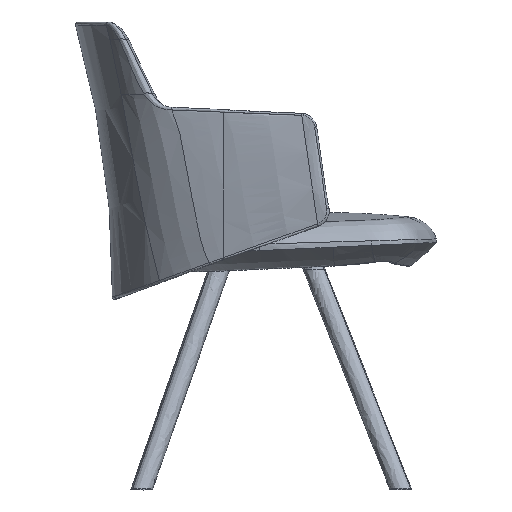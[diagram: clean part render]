
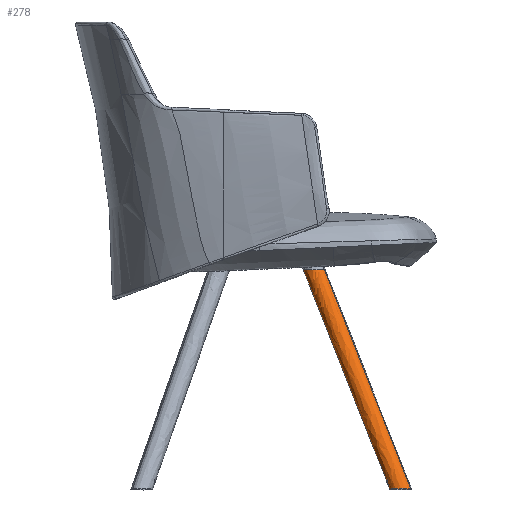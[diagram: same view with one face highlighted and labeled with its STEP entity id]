
A CAD part, left-side view. The second image highlights one B-rep face of the part: STEP entity #278.
In plain terms, the highlighted free-form (B-spline) face has degree [1, 2] with [2, 5] control points.
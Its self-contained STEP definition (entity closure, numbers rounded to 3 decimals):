
#278=ADVANCED_FACE('',(#415),#2401,.T.);
#415=FACE_OUTER_BOUND('',#552,.T.);
#552=EDGE_LOOP('',(#1257,#1258,#1259,#1260));
#1257=ORIENTED_EDGE('',*,*,#1687,.F.);
#1258=ORIENTED_EDGE('',*,*,#1688,.T.);
#1259=ORIENTED_EDGE('',*,*,#1689,.T.);
#1260=ORIENTED_EDGE('',*,*,#1690,.F.);
#1687=EDGE_CURVE('',#2371,#2373,#2117,.T.);
#1688=EDGE_CURVE('',#2371,#2372,#1723,.T.);
#1689=EDGE_CURVE('',#2372,#2374,#2118,.T.);
#1690=EDGE_CURVE('',#2373,#2374,#1724,.T.);
#1723=(
BOUNDED_CURVE()
B_SPLINE_CURVE(1,(#53919,#53920),.UNSPECIFIED.,.F.,.F.)
B_SPLINE_CURVE_WITH_KNOTS((2,2),(0.6,404.127),
 .UNSPECIFIED.)
CURVE()
GEOMETRIC_REPRESENTATION_ITEM()
RATIONAL_B_SPLINE_CURVE((1.,1.))
REPRESENTATION_ITEM('')
);
#1724=(
BOUNDED_CURVE()
B_SPLINE_CURVE(1,(#53954,#53955),.UNSPECIFIED.,.F.,.F.)
B_SPLINE_CURVE_WITH_KNOTS((2,2),(17.315,422.554),
 .UNSPECIFIED.)
CURVE()
GEOMETRIC_REPRESENTATION_ITEM()
RATIONAL_B_SPLINE_CURVE((1.,1.))
REPRESENTATION_ITEM('')
);
#2117=B_SPLINE_CURVE_WITH_KNOTS('',3,(#53888,#53889,#53890,#53891,#53892,
#53893,#53894,#53895,#53896,#53897,#53898,#53899,#53900,#53901,#53902,#53903,
#53904,#53905,#53906,#53907,#53908,#53909,#53910,#53911,#53912,#53913,#53914,
#53915,#53916,#53917,#53918),.UNSPECIFIED.,.F.,.F.,(4,2,2,2,2,2,2,3,2,2,
2,2,2,2,4),(0.,3.637,7.273,10.905,14.535,
21.733,25.326,28.919,32.555,36.191,
43.471,47.141,50.812,54.489,58.167),
 .UNSPECIFIED.);
#2118=B_SPLINE_CURVE_WITH_KNOTS('',3,(#53921,#53922,#53923,#53924,#53925,
#53926,#53927,#53928,#53929,#53930,#53931,#53932,#53933,#53934,#53935,#53936,
#53937,#53938,#53939,#53940,#53941,#53942,#53943,#53944,#53945,#53946,#53947,
#53948,#53949,#53950,#53951,#53952,#53953),.UNSPECIFIED.,.F.,.F.,(4,2,2,
2,2,2,2,2,3,2,2,2,2,2,2,4),(0.,3.65,7.3,10.946,
14.589,18.187,21.783,25.375,28.967,
32.684,36.402,43.84,47.594,51.348,
55.111,58.875),.UNSPECIFIED.);
#2371=VERTEX_POINT('',#53884);
#2372=VERTEX_POINT('',#53885);
#2373=VERTEX_POINT('',#53886);
#2374=VERTEX_POINT('',#53887);
#2401=(
BOUNDED_SURFACE()
B_SPLINE_SURFACE(1,2,((#53864,#53865,#53866,#53867,#53868),(#53869,#53870,
#53871,#53872,#53873)),.UNSPECIFIED.,.F.,.F.,.F.)
B_SPLINE_SURFACE_WITH_KNOTS((2,2),(3,2,3),(0.,504.346),(0.,27.489,
54.978),.UNSPECIFIED.)
GEOMETRIC_REPRESENTATION_ITEM()
RATIONAL_B_SPLINE_SURFACE(((1.,0.707,1.,0.707,1.),
(1.,0.707,1.,0.707,1.)))
REPRESENTATION_ITEM('')
SURFACE()
);
#53864=CARTESIAN_POINT('',(-230.968,-189.008,-451.059));
#53865=CARTESIAN_POINT('',(-245.407,-181.195,-449.418));
#53866=CARTESIAN_POINT('',(-239.059,-168.087,-457.535));
#53867=CARTESIAN_POINT('',(-232.712,-154.98,-465.652));
#53868=CARTESIAN_POINT('',(-218.274,-162.793,-467.293));
#53869=CARTESIAN_POINT('',(-90.36,-14.09,-6.756));
#53870=CARTESIAN_POINT('',(-104.798,-6.277,-5.115));
#53871=CARTESIAN_POINT('',(-98.451,6.83,-13.232));
#53872=CARTESIAN_POINT('',(-92.103,19.938,-21.349));
#53873=CARTESIAN_POINT('',(-77.665,12.124,-22.99));
#53884=CARTESIAN_POINT('',(-230.801,-188.8,-450.53));
#53885=CARTESIAN_POINT('',(-118.301,-48.848,-95.044));
#53886=CARTESIAN_POINT('',(-213.446,-156.788,-452.039));
#53887=CARTESIAN_POINT('',(-100.468,-16.243,-95.044));
#53888=CARTESIAN_POINT('',(-230.801,-188.8,-450.53));
#53889=CARTESIAN_POINT('',(-231.814,-188.277,-450.462));
#53890=CARTESIAN_POINT('',(-232.761,-187.641,-450.399));
#53891=CARTESIAN_POINT('',(-234.495,-186.164,-450.286));
#53892=CARTESIAN_POINT('',(-235.273,-185.33,-450.237));
#53893=CARTESIAN_POINT('',(-236.63,-183.504,-450.154));
#53894=CARTESIAN_POINT('',(-237.204,-182.521,-450.12));
#53895=CARTESIAN_POINT('',(-238.135,-180.45,-450.07));
#53896=CARTESIAN_POINT('',(-238.489,-179.369,-450.054));
#53897=CARTESIAN_POINT('',(-239.219,-176.065,-450.028));
#53898=CARTESIAN_POINT('',(-239.267,-173.792,-450.043));
#53899=CARTESIAN_POINT('',(-238.747,-170.465,-450.107));
#53900=CARTESIAN_POINT('',(-238.476,-169.374,-450.136));
#53901=CARTESIAN_POINT('',(-237.753,-167.252,-450.205));
#53902=CARTESIAN_POINT('',(-237.301,-166.222,-450.246));
#53903=CARTESIAN_POINT('',(-236.767,-165.236,-450.292));
#53904=CARTESIAN_POINT('',(-236.226,-164.238,-450.339));
#53905=CARTESIAN_POINT('',(-235.601,-163.287,-450.392));
#53906=CARTESIAN_POINT('',(-234.198,-161.501,-450.507));
#53907=CARTESIAN_POINT('',(-233.422,-160.667,-450.57));
#53908=CARTESIAN_POINT('',(-230.89,-158.381,-450.771));
#53909=CARTESIAN_POINT('',(-228.942,-157.15,-450.921));
#53910=CARTESIAN_POINT('',(-225.752,-155.891,-451.161));
#53911=CARTESIAN_POINT('',(-224.645,-155.572,-451.243));
#53912=CARTESIAN_POINT('',(-222.382,-155.159,-451.409));
#53913=CARTESIAN_POINT('',(-221.233,-155.068,-451.493));
#53914=CARTESIAN_POINT('',(-218.931,-155.131,-451.658));
#53915=CARTESIAN_POINT('',(-217.786,-155.287,-451.739));
#53916=CARTESIAN_POINT('',(-215.551,-155.852,-451.895));
#53917=CARTESIAN_POINT('',(-214.47,-156.259,-451.97));
#53918=CARTESIAN_POINT('',(-213.446,-156.788,-452.039));
#53919=CARTESIAN_POINT('',(-230.801,-188.8,-450.53));
#53920=CARTESIAN_POINT('',(-118.301,-48.848,-95.044));
#53921=CARTESIAN_POINT('',(-118.301,-48.848,-95.044));
#53922=CARTESIAN_POINT('',(-119.334,-48.353,-95.044));
#53923=CARTESIAN_POINT('',(-120.305,-47.741,-95.044));
#53924=CARTESIAN_POINT('',(-122.084,-46.298,-95.044));
#53925=CARTESIAN_POINT('',(-122.882,-45.477,-95.044));
#53926=CARTESIAN_POINT('',(-124.274,-43.664,-95.044));
#53927=CARTESIAN_POINT('',(-124.861,-42.682,-95.044));
#53928=CARTESIAN_POINT('',(-125.808,-40.607,-95.044));
#53929=CARTESIAN_POINT('',(-126.165,-39.522,-95.044));
#53930=CARTESIAN_POINT('',(-126.647,-37.31,-95.044));
#53931=CARTESIAN_POINT('',(-126.774,-36.19,-95.044));
#53932=CARTESIAN_POINT('',(-126.816,-33.942,-95.044));
#53933=CARTESIAN_POINT('',(-126.73,-32.818,-95.044));
#53934=CARTESIAN_POINT('',(-126.362,-30.603,-95.044));
#53935=CARTESIAN_POINT('',(-126.081,-29.512,-95.044));
#53936=CARTESIAN_POINT('',(-125.34,-27.393,-95.044));
#53937=CARTESIAN_POINT('',(-124.881,-26.364,-95.044));
#53938=CARTESIAN_POINT('',(-124.342,-25.378,-95.044));
#53939=CARTESIAN_POINT('',(-123.785,-24.36,-95.044));
#53940=CARTESIAN_POINT('',(-123.142,-23.387,-95.044));
#53941=CARTESIAN_POINT('',(-121.706,-21.56,-95.044));
#53942=CARTESIAN_POINT('',(-120.913,-20.705,-95.044));
#53943=CARTESIAN_POINT('',(-118.335,-18.352,-95.044));
#53944=CARTESIAN_POINT('',(-116.354,-17.067,-95.044));
#53945=CARTESIAN_POINT('',(-113.115,-15.714,-95.044));
#53946=CARTESIAN_POINT('',(-111.987,-15.359,-95.044));
#53947=CARTESIAN_POINT('',(-109.681,-14.873,-95.044));
#53948=CARTESIAN_POINT('',(-108.506,-14.743,-95.044));
#53949=CARTESIAN_POINT('',(-106.145,-14.731,-95.044));
#53950=CARTESIAN_POINT('',(-104.966,-14.85,-95.044));
#53951=CARTESIAN_POINT('',(-102.656,-15.351,-95.044));
#53952=CARTESIAN_POINT('',(-101.534,-15.732,-95.044));
#53953=CARTESIAN_POINT('',(-100.468,-16.243,-95.044));
#53954=CARTESIAN_POINT('',(-213.446,-156.788,-452.039));
#53955=CARTESIAN_POINT('',(-100.468,-16.243,-95.044));
